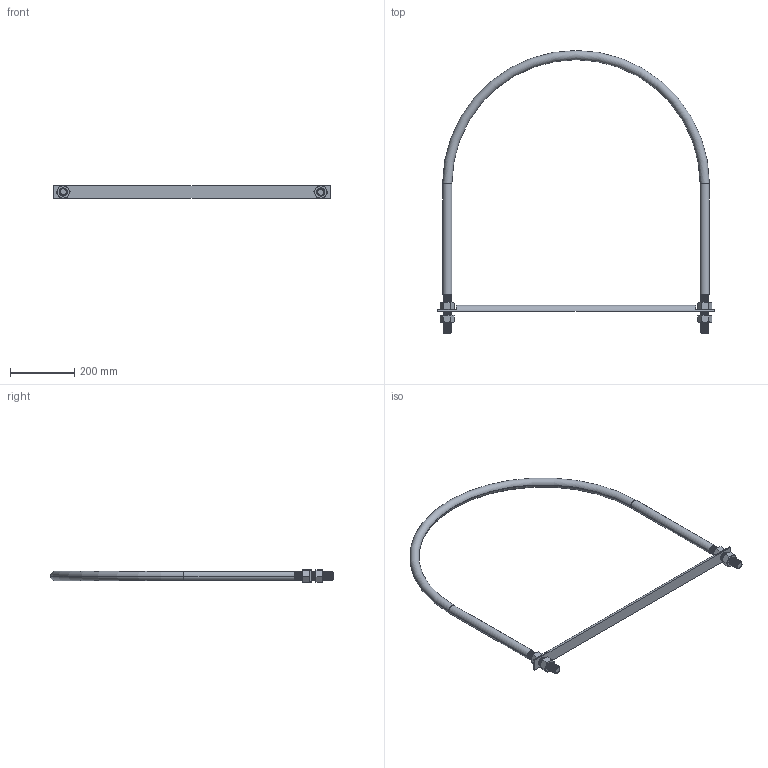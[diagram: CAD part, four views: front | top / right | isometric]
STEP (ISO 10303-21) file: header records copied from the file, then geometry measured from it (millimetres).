
FILE_DESCRIPTION (( 'STEP AP214' ), '1' );
FILE_NAME ('NUB1479.STEP', '2022-04-04T18:09:29', ( '' ), ( '' ), 'SwSTEP 2.0', 'SolidWorks 2021', '' );
FILE_SCHEMA (( 'AUTOMOTIVE_DESIGN' ));
Length unit declared in the file: inch
Products named in the file (4): NUB1479; FAS0050; ROD0653_IR27-30 XL [ROD0653]; UBT1006_UBT27-30-1-8 XL [NUB1479]
Assembly tree (6 placements, depth 2):
  NUB1479
    FAS0050  x4
    UBT1006_UBT27-30-1-8 XL [NUB1479]
    ROD0653_IR27-30 XL [ROD0653]
Bounding box: 863.6 x 882.75 x 39.77 mm (x, y, z)
Volume: 1809478.2 mm3; surface area: 630452.8 mm2
Topology: 7 solids, 7 shells, 310 faces, 812 edges, 516 vertices
Faces by surface type: cylinder 179, cone 76, plane 45, torus 6, bspline 4
Entity records: 19534 total; most frequent: CARTESIAN_POINT 14387, ORIENTED_EDGE 1228, DIRECTION 807, EDGE_CURVE 614, VERTEX_POINT 399, AXIS2_PLACEMENT_3D 303, EDGE_LOOP 231, FACE_OUTER_BOUND 223
